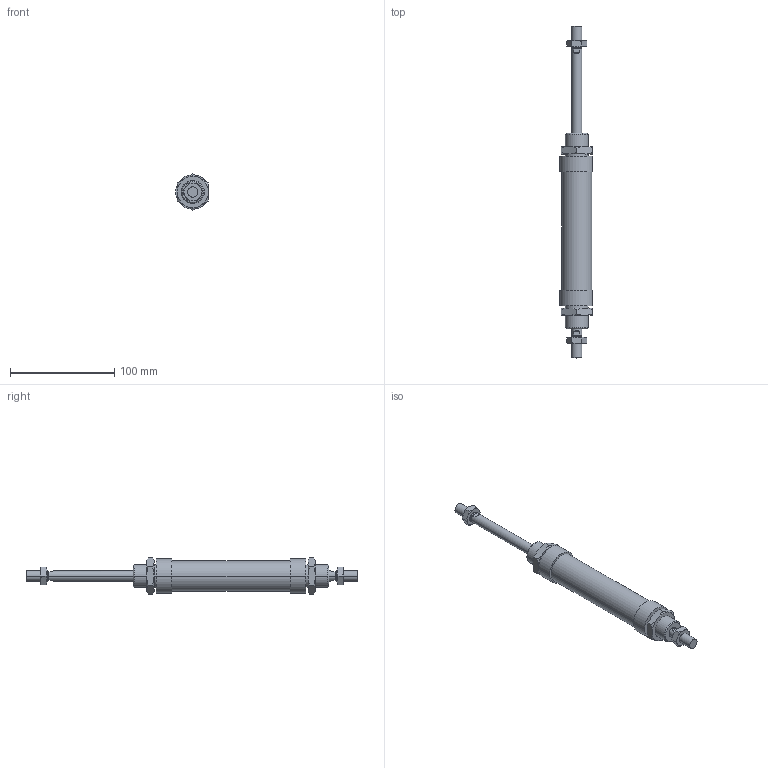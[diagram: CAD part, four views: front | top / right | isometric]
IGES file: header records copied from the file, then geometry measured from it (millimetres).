
Global section: file name: No Iges File Name specified; native system: AutoDesk Inventor R6.0; preprocessor: AutoDesk Inventor Iges Exporter R6.0; author: No Author specified; organization: No Organization specified; date: 20030403.072445; units: millimetre
Bounding box: 31.5 x 319 x 34.64 mm (x, y, z)
Volume: 134443.7 mm3; surface area: 40565.9 mm2
Topology: 6 solids, 6 shells, 184 faces, 396 edges, 232 vertices
Faces by surface type: cone 68, plane 60, bspline 30, cylinder 20, revolution 6
